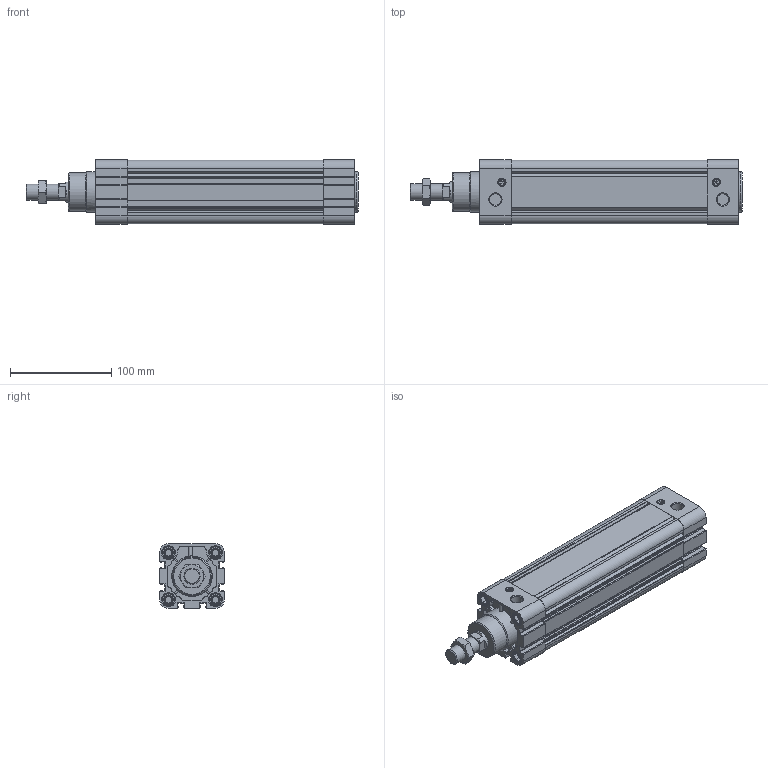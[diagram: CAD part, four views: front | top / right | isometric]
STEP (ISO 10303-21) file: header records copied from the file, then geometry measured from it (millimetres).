
FILE_DESCRIPTION( ( 'STEP AP214' ), '1' );
FILE_NAME( 'C:/Users/emc02044/Desktop/FVBC/FVBC50X150-S.stp', '2026-07-20T06:41:59', ( 'License CC BY-ND 4.0' ), ( 'CADENAS' ), ' ', 'PARTsolutions', ' ' );
FILE_SCHEMA( ( 'AUTOMOTIVE_DESIGN { 1 0 10303 214 1 1 1 1 }' ) );
Length unit declared in the file: millimetre
Products named in the file (3): FVBC50X150-0-S()(0); _FVB50x150()_fvbc_body ; _50X150-0_rod
Assembly tree (2 placements, depth 2):
  FVBC50X150-0-S()(0)
    _FVB50x150()_fvbc_body 
    _50X150-0_rod
Bounding box: 328.5 x 64 x 64.3 mm (x, y, z)
Volume: 710104.1 mm3; surface area: 182944.3 mm2
Topology: 2 solids, 4 shells, 706 faces, 1734 edges, 1103 vertices
Faces by surface type: plane 359, cylinder 264, cone 74, torus 9
Full cylindrical faces by diameter (mm): 1.9 x2, 2.5 x2, 4 x2, 5.4 x2, 6 x2, 6.647 x8, 6.7 x2, 6.9 x2, 7 x4, 8 x6, 11 x4, 11.445 x2, 12 x8, 13.5 x8, 16 x2, 20 x3, 26.667 x2, 38 x1, 40 x2, 50 x2
Entity records: 26458 total; most frequent: CARTESIAN_POINT 4197, DIRECTION 3576, ORIENTED_EDGE 3226, EDGE_CURVE 1613, AXIS2_PLACEMENT_3D 1330, VERTEX_POINT 1093, LINE 916, VECTOR 916
